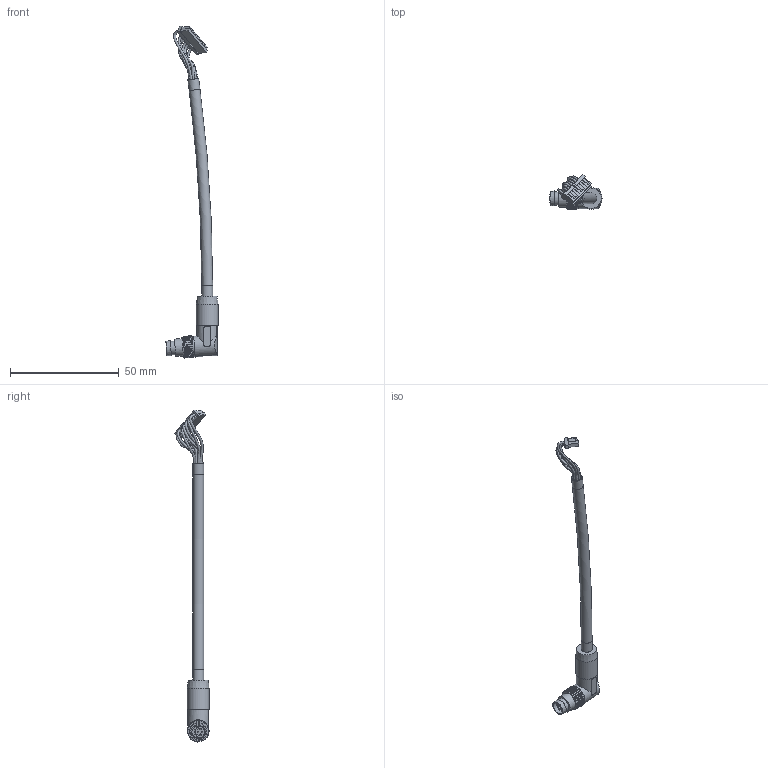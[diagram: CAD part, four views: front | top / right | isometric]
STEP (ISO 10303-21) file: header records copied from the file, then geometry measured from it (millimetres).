
FILE_DESCRIPTION(/* description */ (''),/* implementation_level */ '2;1');
FILE_NAME(/* name */ 'ZW-GPE-210-M8-SW.stp',/* time_stamp */ '2025-11-10T12:10:33+01:00',/* author */ ('vbednarz'),/* organization */ (''),/* preprocessor_version */ 'ST-DEVELOPER v20.1',/* originating_system */ 'Autodesk Inventor 2026',/* authorisation */ '');
FILE_SCHEMA (('AUTOMOTIVE_DESIGN { 1 0 10303 214 3 1 1 }'));
Length unit declared in the file: millimetre
Products named in the file (1): 3D_ZW-GPE-210-M8-SW
Bounding box: 23.97 x 15.71 x 152.6 mm (x, y, z)
Volume: 4984 mm3; surface area: 4561.7 mm2
Topology: 2 solids, 3 shells, 407 faces, 1030 edges, 684 vertices
Faces by surface type: plane 258, cylinder 130, sphere 8, bspline 8, cone 2, torus 1
Full cylindrical faces by diameter (mm): 0.6 x8, 1 x8, 5 x2, 5.8 x1, 6.3 x1, 8 x1, 9.4 x1, 10 x1
Entity records: 14433 total; most frequent: CARTESIAN_POINT 3750, DIRECTION 2147, ORIENTED_EDGE 2044, EDGE_CURVE 1022, AXIS2_PLACEMENT_3D 744, VERTEX_POINT 684, LINE 659, VECTOR 659
